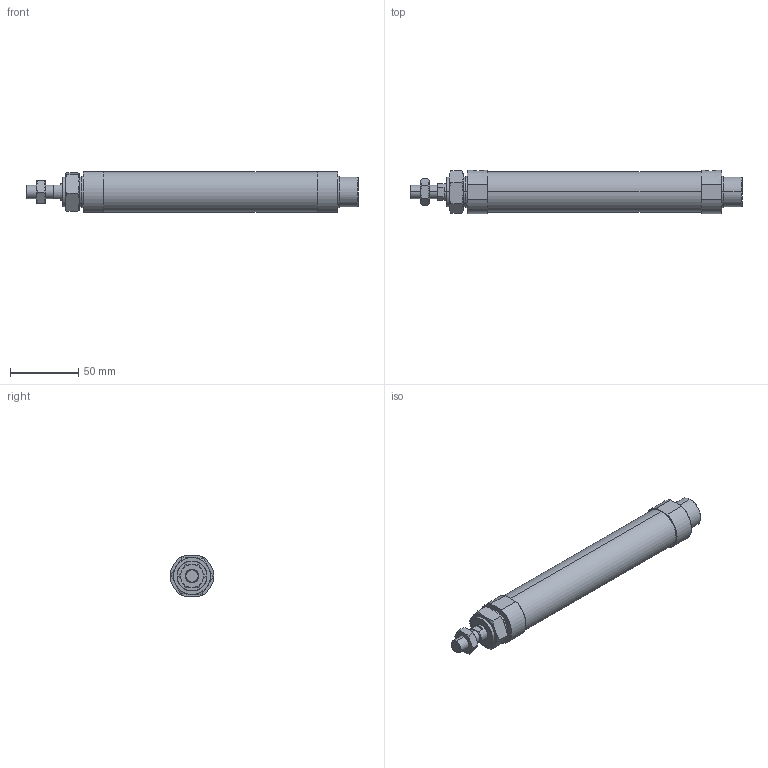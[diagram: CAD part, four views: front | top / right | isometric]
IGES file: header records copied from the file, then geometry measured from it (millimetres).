
Start section: SolidWorks IGES file using analytic representation for surfaces
Global section: file name: C:\Users\Toshiba\Desktop\J#2-25-125-N.IGS; native system: SolidWorks 2014; preprocessor: SolidWorks 2014; author: Toshiba; date: 160308.152535; units: millimetre
Bounding box: 244 x 32 x 30 mm (x, y, z)
Surface area: 26723.3 mm2 (no closed solid volume)
Topology: 0 solids, 0 shells, 97 faces, 1744 edges, 1740 vertices
Faces by surface type: bspline 61, revolution 36
